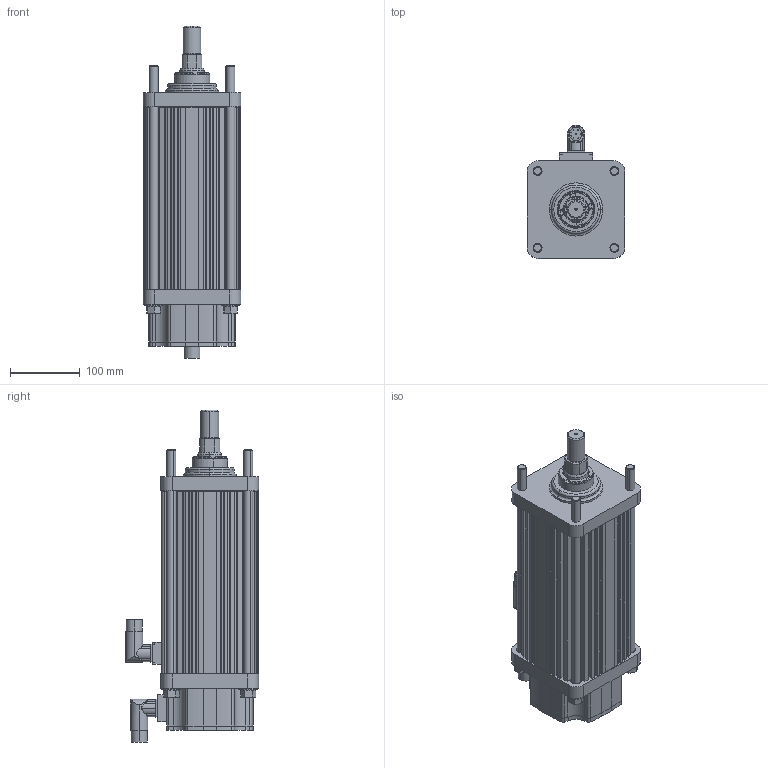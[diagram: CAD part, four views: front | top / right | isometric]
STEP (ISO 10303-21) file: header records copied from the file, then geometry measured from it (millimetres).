
FILE_DESCRIPTION (( 'STEP AP203' ), '1' );
FILE_NAME ('GSX50 – 6 inch, Front Flange, euro conn, A rod.step', '2007-08-01T05:19:12', ( 'i2t2' ), ( '' ), 'SwSTEP 2.0', 'SolidWorks 2007', '' );
FILE_SCHEMA (( 'CONFIG_CONTROL_DESIGN' ));
Length unit declared in the file: inch
Products named in the file (17): 19819; 23017; 31792; 20494; 22012; TIEROD_22696-6"; 22013; CASE-GSX50_22621-6 inch; 22602; GSX50 – 6 inch, Front Flange, euro conn, A rod; 22707; MAIN ROD_A-MAIN ROD-6"; 22501_6 inch; 22706; 22869_Standard; 11923; 22711
Assembly tree (27 placements, depth 2):
  GSX50 – 6 inch, Front Flange, euro conn, A rod
    11923  x2
    22012  x4
    22602  x2
    20494
    MAIN ROD_A-MAIN ROD-6"
    CASE-GSX50_22621-6 inch
    TIEROD_22696-6"  x4
    22711
    23017
    22869_Standard
    31792
    22013  x4
    22501_6 inch
    22706
    19819
    22707
Bounding box: 139.7 x 190.61 x 475.27 mm (x, y, z)
Volume: 3241301.9 mm3; surface area: 912189.1 mm2
Topology: 29 solids, 29 shells, 1367 faces, 3596 edges, 2215 vertices
Faces by surface type: cylinder 592, plane 320, cone 257, torus 144, sphere 52, bspline 2
Entity records: 38598 total; most frequent: CARTESIAN_POINT 8531, DIRECTION 6238, ORIENTED_EDGE 5614, EDGE_CURVE 2807, AXIS2_PLACEMENT_3D 2539, VERTEX_POINT 1792, CIRCLE 1382, EDGE_LOOP 1347
